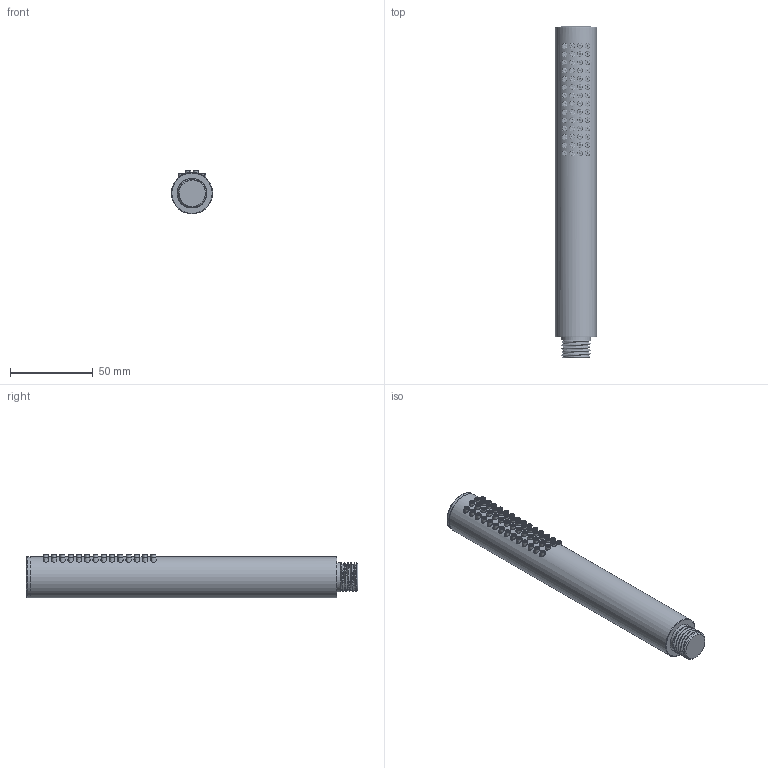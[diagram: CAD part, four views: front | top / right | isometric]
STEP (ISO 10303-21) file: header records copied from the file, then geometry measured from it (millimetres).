
FILE_DESCRIPTION(/* description */ (''),/* implementation_level */ '2;1');
FILE_NAME(/* name */ 'D:\Omnires\Export_Omnires\rys_step\5901867772671_stp.stp',/* time_stamp */ '2020-07-27T14:08:26+02:00',/* author */ (''),/* organization */ (''),/* preprocessor_version */ 'ST-DEVELOPER v18.1',/* originating_system */ 'Autodesk Inventor 2020',/* authorisation */ '');
FILE_SCHEMA (('AUTOMOTIVE_DESIGN { 1 0 10303 214 3 1 1 }'));
Products named in the file (1): 5901867772671_dwg
Bounding box: 25 x 200.69 x 26.5 mm (x, y, z)
Surface area: 40472.4 mm2 (no closed solid volume)
Topology: 0 solids, 30 shells, 870 faces, 2660 edges, 2060 vertices
Faces by surface type: bspline 619, cylinder 101, plane 90, torus 59, cone 1
Full cylindrical faces by diameter (mm): 0.9 x84, 15.534 x7, 17.822 x5, 25 x2
Entity records: 200858 total; most frequent: CARTESIAN_POINT 180182, ORIENTED_EDGE 5318, EDGE_CURVE 2659, VERTEX_POINT 2060, B_SPLINE_CURVE_WITH_KNOTS 1910, DIRECTION 1691, EDGE_LOOP 1361, FACE_OUTER_BOUND 870
